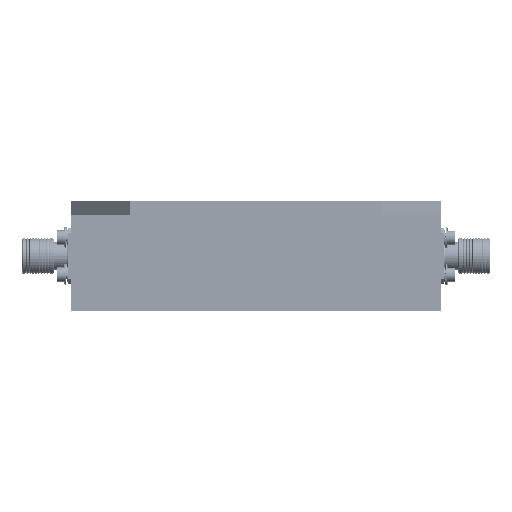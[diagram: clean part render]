
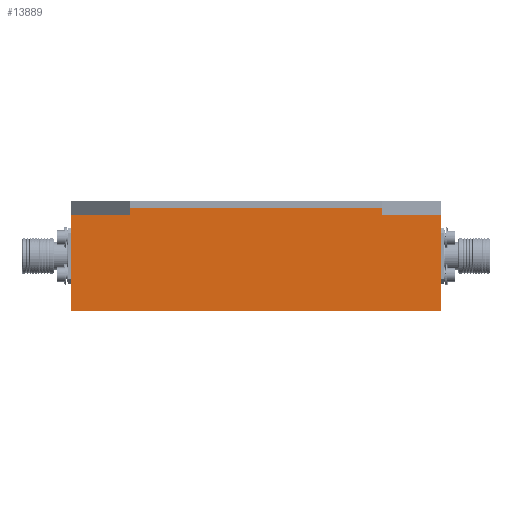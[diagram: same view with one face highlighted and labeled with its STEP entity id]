
A CAD part, front view. The second image highlights one B-rep face of the part: STEP entity #13889.
In plain terms, the highlighted planar face has unit normal (0, -1, 0).
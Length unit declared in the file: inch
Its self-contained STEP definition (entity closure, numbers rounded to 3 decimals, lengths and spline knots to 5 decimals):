
#146 = VECTOR ( 'NONE', #8009, 39.37008 ) ;
#1762 = EDGE_CURVE ( 'NONE', #18786, #4603, #33815, .T. ) ;
#2147 = CARTESIAN_POINT ( 'NONE',  ( -1.25, -0.85, 0.65 ) ) ;
#2362 = VERTEX_POINT ( 'NONE', #32018 ) ;
#2507 = PLANE ( 'NONE',  #24392 ) ;
#2893 = CARTESIAN_POINT ( 'NONE',  ( -0.85, -0.85, 0.7 ) ) ;
#3185 = DIRECTION ( 'NONE',  ( 0., 1., 0. ) ) ;
#3622 = LINE ( 'NONE', #32315, #22037 ) ;
#3987 = VERTEX_POINT ( 'NONE', #26094 ) ;
#4603 = VERTEX_POINT ( 'NONE', #32998 ) ;
#4607 = VECTOR ( 'NONE', #20153, 39.37008 ) ;
#5526 = LINE ( 'NONE', #2893, #29054 ) ;
#7773 = DIRECTION ( 'NONE',  ( 1., 0., 0. ) ) ;
#8009 = DIRECTION ( 'NONE',  ( 0., 0., -1. ) ) ;
#8115 = EDGE_LOOP ( 'NONE', ( #31474, #22904, #26284, #29569, #11747, #34191, #21644, #21741 ) ) ;
#8245 = EDGE_CURVE ( 'NONE', #2362, #8674, #5526, .T. ) ;
#8534 = VERTEX_POINT ( 'NONE', #25037 ) ;
#8674 = VERTEX_POINT ( 'NONE', #27935 ) ;
#8736 = DIRECTION ( 'NONE',  ( 0., 0., -1. ) ) ;
#9447 = CARTESIAN_POINT ( 'NONE',  ( -0.85, -0.85, 0.7 ) ) ;
#10222 = CARTESIAN_POINT ( 'NONE',  ( -1.25, -0.85, 0. ) ) ;
#10942 = DIRECTION ( 'NONE',  ( 1., 0., 0. ) ) ;
#11095 = CARTESIAN_POINT ( 'NONE',  ( -1.25, -0.85, 0.65 ) ) ;
#11747 = ORIENTED_EDGE ( 'NONE', *, *, #29082, .F. ) ;
#13889 = ADVANCED_FACE ( 'NONE', ( #18150 ), #2507, .F. ) ;
#13950 = DIRECTION ( 'NONE',  ( 0., 0., -1. ) ) ;
#14764 = CARTESIAN_POINT ( 'NONE',  ( -1.25, -0.85, 0.65 ) ) ;
#15353 = DIRECTION ( 'NONE',  ( 1., 0., 0. ) ) ;
#15863 = VECTOR ( 'NONE', #25259, 39.37008 ) ;
#16369 = LINE ( 'NONE', #11095, #25593 ) ;
#16542 = CARTESIAN_POINT ( 'NONE',  ( -1.25, -0.85, 0.65 ) ) ;
#17988 = CARTESIAN_POINT ( 'NONE',  ( -1.25, -0.85, 0. ) ) ;
#18150 = FACE_OUTER_BOUND ( 'NONE', #8115, .T. ) ;
#18786 = VERTEX_POINT ( 'NONE', #10222 ) ;
#20153 = DIRECTION ( 'NONE',  ( 1., 0., 0. ) ) ;
#20195 = EDGE_CURVE ( 'NONE', #8534, #3987, #23772, .T. ) ;
#20712 = VERTEX_POINT ( 'NONE', #23734 ) ;
#21644 = ORIENTED_EDGE ( 'NONE', *, *, #24505, .F. ) ;
#21741 = ORIENTED_EDGE ( 'NONE', *, *, #28956, .T. ) ;
#22037 = VECTOR ( 'NONE', #8736, 39.37008 ) ;
#22904 = ORIENTED_EDGE ( 'NONE', *, *, #29128, .F. ) ;
#23734 = CARTESIAN_POINT ( 'NONE',  ( 0.85, -0.85, 0.7 ) ) ;
#23772 = LINE ( 'NONE', #2147, #27842 ) ;
#24106 = VECTOR ( 'NONE', #15353, 39.37008 ) ;
#24392 = AXIS2_PLACEMENT_3D ( 'NONE', #16542, #3185, #10942 ) ;
#24505 = EDGE_CURVE ( 'NONE', #31682, #8674, #16369, .T. ) ;
#25037 = CARTESIAN_POINT ( 'NONE',  ( 0.85, -0.85, 0.65 ) ) ;
#25259 = DIRECTION ( 'NONE',  ( 0., 0., -1. ) ) ;
#25593 = VECTOR ( 'NONE', #30075, 39.37008 ) ;
#26094 = CARTESIAN_POINT ( 'NONE',  ( 1.25, -0.85, 0.65 ) ) ;
#26284 = ORIENTED_EDGE ( 'NONE', *, *, #20195, .F. ) ;
#27842 = VECTOR ( 'NONE', #7773, 39.37008 ) ;
#27935 = CARTESIAN_POINT ( 'NONE',  ( -0.85, -0.85, 0.65 ) ) ;
#28595 = LINE ( 'NONE', #30891, #15863 ) ;
#28956 = EDGE_CURVE ( 'NONE', #31682, #18786, #3622, .T. ) ;
#29054 = VECTOR ( 'NONE', #13950, 39.37008 ) ;
#29082 = EDGE_CURVE ( 'NONE', #2362, #20712, #33527, .T. ) ;
#29128 = EDGE_CURVE ( 'NONE', #3987, #4603, #28595, .T. ) ;
#29253 = EDGE_CURVE ( 'NONE', #20712, #8534, #32110, .T. ) ;
#29569 = ORIENTED_EDGE ( 'NONE', *, *, #29253, .F. ) ;
#30075 = DIRECTION ( 'NONE',  ( 1., 0., 0. ) ) ;
#30891 = CARTESIAN_POINT ( 'NONE',  ( 1.25, -0.85, 0.65 ) ) ;
#31417 = CARTESIAN_POINT ( 'NONE',  ( 0.85, -0.85, 0.7 ) ) ;
#31474 = ORIENTED_EDGE ( 'NONE', *, *, #1762, .T. ) ;
#31682 = VERTEX_POINT ( 'NONE', #14764 ) ;
#32018 = CARTESIAN_POINT ( 'NONE',  ( -0.85, -0.85, 0.7 ) ) ;
#32110 = LINE ( 'NONE', #31417, #146 ) ;
#32315 = CARTESIAN_POINT ( 'NONE',  ( -1.25, -0.85, 0.65 ) ) ;
#32998 = CARTESIAN_POINT ( 'NONE',  ( 1.25, -0.85, 0. ) ) ;
#33527 = LINE ( 'NONE', #9447, #4607 ) ;
#33815 = LINE ( 'NONE', #17988, #24106 ) ;
#34191 = ORIENTED_EDGE ( 'NONE', *, *, #8245, .T. ) ;
